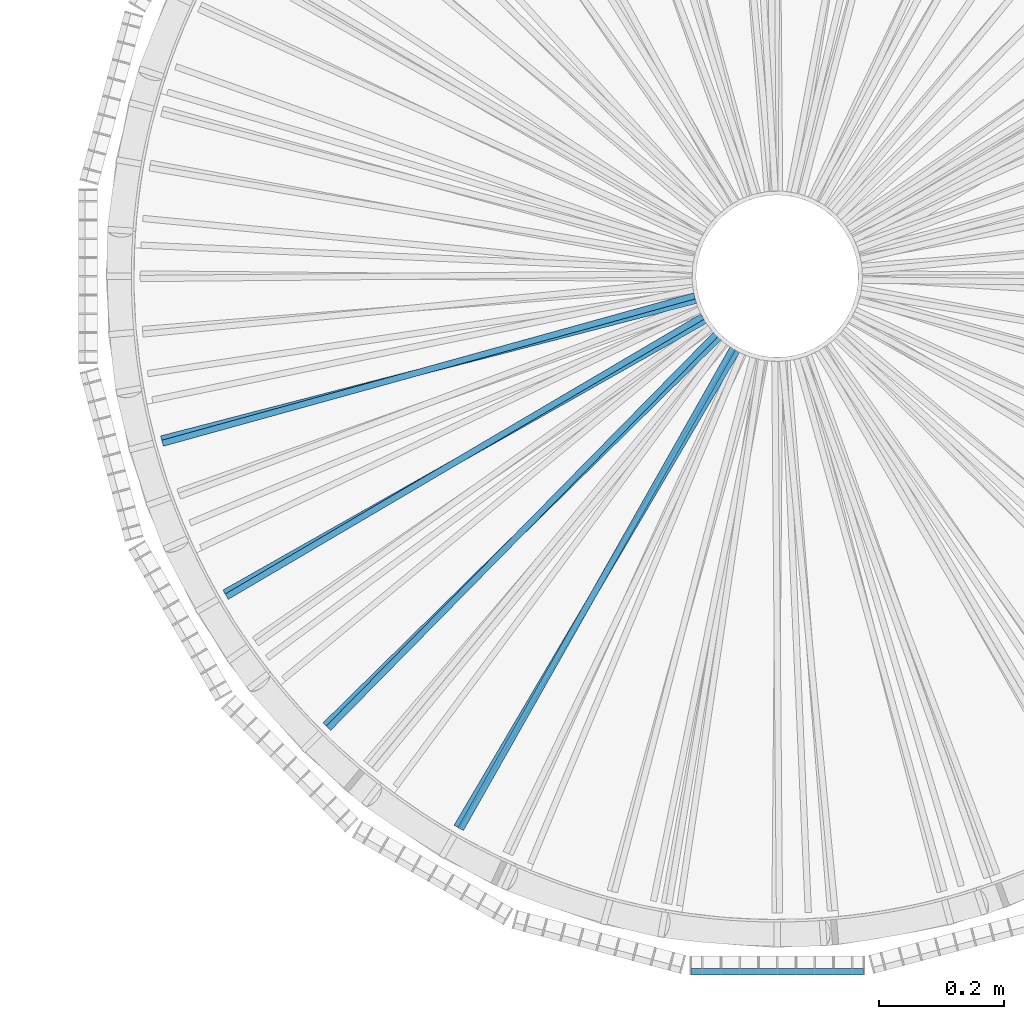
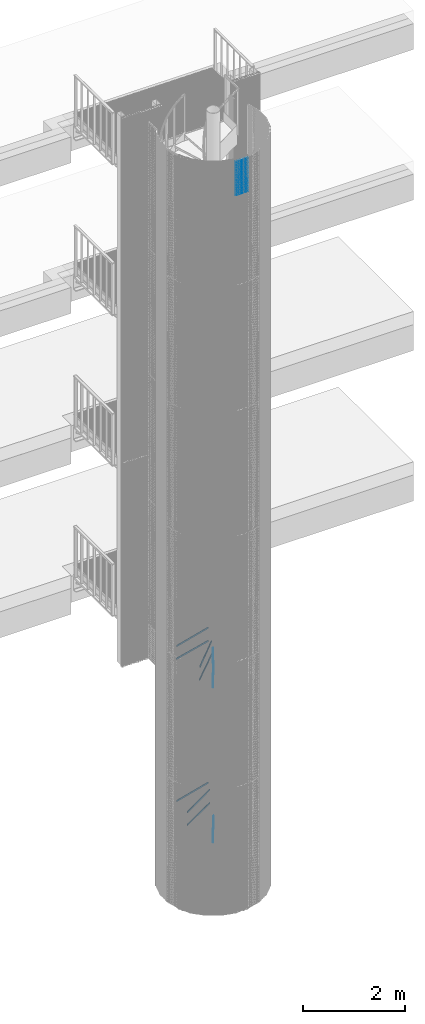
# One storey, part 390 of 1183: 38 beams, 2 elements without a shape of their own.
"""IFC2X3 building model written with IfcOpenShell, lengths in millimetres."""

from ifc_helpers import new_model, si_unit, frame, origin_with_axes, origin_2d_with_axis, place, context, subcontext, project, spatial, polyline, rectangle, outline, extrude, boolean, material, type_object, element, aggregate, save


model = new_model("IFC2X3")

# Units and contexts
model_context = context("Model", 3, precision=1e-05, world=origin_with_axes())
body_context = subcontext(model_context, "Body", "Model", "MODEL_VIEW")
ifc_project = project(units=[si_unit("LENGTHUNIT", "METRE", prefix="MILLI"), si_unit("AREAUNIT", "SQUARE_METRE"), si_unit("VOLUMEUNIT", "CUBIC_METRE"), si_unit("MASSUNIT", "GRAM", prefix="KILO"), si_unit("TIMEUNIT", "SECOND"), si_unit("PLANEANGLEUNIT", "RADIAN"), si_unit("SOLIDANGLEUNIT", "STERADIAN"), si_unit("THERMODYNAMICTEMPERATUREUNIT", "DEGREE_CELSIUS"), si_unit("LUMINOUSINTENSITYUNIT", "LUMEN")], contexts=[model_context])

# Site, building, storey
site_placement = place(None, origin_with_axes())
site = spatial("IfcSite", under=ifc_project, at=site_placement, Name="Undefined", CompositionType="ELEMENT")
building_placement = place(site_placement, origin_with_axes())
building = spatial("IfcBuilding", under=site, at=building_placement, Name="Undefined", CompositionType="ELEMENT")
storey_placement = place(building_placement, origin_with_axes())
storey = spatial("IfcBuildingStorey", under=building, at=storey_placement, Name="Undefined", CompositionType="ELEMENT", Elevation=0.0)

# Assembly, beams
assembly_1_placement = place(storey_placement, origin_with_axes())
assembly_1 = element("IfcElementAssembly", 1, at=assembly_1_placement, inside=storey, Name="BORDURE", AssemblyPlace="NOTDEFINED", PredefinedType="NOTDEFINED")
ifc_material = material(Name="STEEL/S235JR")
beam_type_1 = type_object("IfcBeamType", Name="PL2*10", PredefinedType="NOTDEFINED")
beam_1_placement = place(assembly_1_placement, frame((21737.9960033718, -1113.47999999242, 17970.0), z_axis=(0.0, -1.0, 0.0), x_axis=(-1.0, 0.0, 0.0)))
beam_1 = element("IfcBeam", 2, at=beam_1_placement, type_object=beam_type_1, material=ifc_material, Name="ENTRETOISE", context=body_context, shape_type="SweptSolid", body=[
    extrude(rectangle(XDim=2.0, YDim=10.0, at=origin_2d_with_axis()), frame((275.999999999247, 9.09494701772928e-13, 1.53210777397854e-14), z_axis=(-1.0, 0.0, 0.0), x_axis=(0.0, -1.0, 0.0)), (0.0, 0.0, 1.0), 276.0),
])
beam_2_placement = place(assembly_1_placement, frame((21737.9960033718, -1113.47999999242, 17940.0), z_axis=(0.0, -1.0, 0.0), x_axis=(-1.0, 0.0, 0.0)))
beam_2 = element("IfcBeam", 3, at=beam_2_placement, type_object=beam_type_1, material=ifc_material, Name="ENTRETOISE", context=body_context, shape_type="SweptSolid", body=[
    extrude(rectangle(XDim=2.0, YDim=10.0, at=origin_2d_with_axis()), frame((275.999999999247, 9.09494701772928e-13, 1.53210777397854e-14), z_axis=(-1.0, 0.0, 0.0), x_axis=(0.0, -1.0, 0.0)), (0.0, 0.0, 1.0), 276.0),
])
beam_3_placement = place(assembly_1_placement, frame((21737.9960033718, -1113.47999999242, 17910.0), z_axis=(0.0, -1.0, 0.0), x_axis=(-1.0, 0.0, 0.0)))
beam_3 = element("IfcBeam", 4, at=beam_3_placement, type_object=beam_type_1, material=ifc_material, Name="ENTRETOISE", context=body_context, shape_type="SweptSolid", body=[
    extrude(rectangle(XDim=2.0, YDim=10.0, at=origin_2d_with_axis()), frame((275.999999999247, 9.09494701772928e-13, 1.53210777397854e-14), z_axis=(-1.0, 0.0, 0.0), x_axis=(0.0, -1.0, 0.0)), (0.0, 0.0, 1.0), 276.0),
])
beam_4_placement = place(assembly_1_placement, frame((21737.9960033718, -1113.47999999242, 17880.0), z_axis=(0.0, -1.0, 0.0), x_axis=(-1.0, 0.0, 0.0)))
beam_4 = element("IfcBeam", 5, at=beam_4_placement, type_object=beam_type_1, material=ifc_material, Name="ENTRETOISE", context=body_context, shape_type="SweptSolid", body=[
    extrude(rectangle(XDim=2.0, YDim=10.0, at=origin_2d_with_axis()), frame((275.999999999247, 9.09494701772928e-13, 1.53210777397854e-14), z_axis=(-1.0, 0.0, 0.0), x_axis=(0.0, -1.0, 0.0)), (0.0, 0.0, 1.0), 276.0),
])
beam_5_placement = place(assembly_1_placement, frame((21737.9960033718, -1113.47999999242, 17850.0), z_axis=(0.0, -1.0, 0.0), x_axis=(-1.0, 0.0, 0.0)))
beam_5 = element("IfcBeam", 6, at=beam_5_placement, type_object=beam_type_1, material=ifc_material, Name="ENTRETOISE", context=body_context, shape_type="SweptSolid", body=[
    extrude(rectangle(XDim=2.0, YDim=10.0, at=origin_2d_with_axis()), frame((275.999999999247, 9.09494701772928e-13, 1.53210777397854e-14), z_axis=(-1.0, 0.0, 0.0), x_axis=(0.0, -1.0, 0.0)), (0.0, 0.0, 1.0), 276.0),
])
beam_6_placement = place(assembly_1_placement, frame((21737.9960033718, -1113.47999999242, 17820.0), z_axis=(0.0, -1.0, 0.0), x_axis=(-1.0, 0.0, 0.0)))
beam_6 = element("IfcBeam", 7, at=beam_6_placement, type_object=beam_type_1, material=ifc_material, Name="ENTRETOISE", context=body_context, shape_type="SweptSolid", body=[
    extrude(rectangle(XDim=2.0, YDim=10.0, at=origin_2d_with_axis()), frame((275.999999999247, 9.09494701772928e-13, 1.53210777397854e-14), z_axis=(-1.0, 0.0, 0.0), x_axis=(0.0, -1.0, 0.0)), (0.0, 0.0, 1.0), 276.0),
])
beam_7_placement = place(assembly_1_placement, frame((21737.9960033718, -1113.47999999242, 17790.0), z_axis=(0.0, -1.0, 0.0), x_axis=(-1.0, 0.0, 0.0)))
beam_7 = element("IfcBeam", 8, at=beam_7_placement, type_object=beam_type_1, material=ifc_material, Name="ENTRETOISE", context=body_context, shape_type="SweptSolid", body=[
    extrude(rectangle(XDim=2.0, YDim=10.0, at=origin_2d_with_axis()), frame((275.999999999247, 9.09494701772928e-13, 1.53210777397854e-14), z_axis=(-1.0, 0.0, 0.0), x_axis=(0.0, -1.0, 0.0)), (0.0, 0.0, 1.0), 276.0),
])
beam_8_placement = place(assembly_1_placement, frame((21737.9960033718, -1113.47999999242, 17760.0), z_axis=(0.0, -1.0, 0.0), x_axis=(-1.0, 0.0, 0.0)))
beam_8 = element("IfcBeam", 9, at=beam_8_placement, type_object=beam_type_1, material=ifc_material, Name="ENTRETOISE", context=body_context, shape_type="SweptSolid", body=[
    extrude(rectangle(XDim=2.0, YDim=10.0, at=origin_2d_with_axis()), frame((275.999999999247, 9.09494701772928e-13, 1.53210777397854e-14), z_axis=(-1.0, 0.0, 0.0), x_axis=(0.0, -1.0, 0.0)), (0.0, 0.0, 1.0), 276.0),
])
beam_9_placement = place(assembly_1_placement, frame((21737.9960033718, -1113.47999999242, 17730.0), z_axis=(0.0, -1.0, 0.0), x_axis=(-1.0, 0.0, 0.0)))
beam_9 = element("IfcBeam", 10, at=beam_9_placement, type_object=beam_type_1, material=ifc_material, Name="ENTRETOISE", context=body_context, shape_type="SweptSolid", body=[
    extrude(rectangle(XDim=2.0, YDim=10.0, at=origin_2d_with_axis()), frame((275.999999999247, 9.09494701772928e-13, 1.53210777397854e-14), z_axis=(-1.0, 0.0, 0.0), x_axis=(0.0, -1.0, 0.0)), (0.0, 0.0, 1.0), 276.0),
])
beam_10_placement = place(assembly_1_placement, frame((21737.9960033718, -1113.47999999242, 17700.0), z_axis=(0.0, -1.0, 0.0), x_axis=(-1.0, 0.0, 0.0)))
beam_10 = element("IfcBeam", 11, at=beam_10_placement, type_object=beam_type_1, material=ifc_material, Name="ENTRETOISE", context=body_context, shape_type="SweptSolid", body=[
    extrude(rectangle(XDim=2.0, YDim=10.0, at=origin_2d_with_axis()), frame((275.999999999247, 9.09494701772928e-13, 1.53210777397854e-14), z_axis=(-1.0, 0.0, 0.0), x_axis=(0.0, -1.0, 0.0)), (0.0, 0.0, 1.0), 276.0),
])
beam_11_placement = place(assembly_1_placement, frame((21737.9960033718, -1113.47999999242, 17670.0), z_axis=(0.0, -1.0, 0.0), x_axis=(-1.0, 0.0, 0.0)))
beam_11 = element("IfcBeam", 12, at=beam_11_placement, type_object=beam_type_1, material=ifc_material, Name="ENTRETOISE", context=body_context, shape_type="SweptSolid", body=[
    extrude(rectangle(XDim=2.0, YDim=10.0, at=origin_2d_with_axis()), frame((275.999999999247, 9.09494701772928e-13, 1.53210777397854e-14), z_axis=(-1.0, 0.0, 0.0), x_axis=(0.0, -1.0, 0.0)), (0.0, 0.0, 1.0), 276.0),
])
beam_12_placement = place(assembly_1_placement, frame((21737.9960033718, -1113.47999999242, 17640.0), z_axis=(0.0, -1.0, 0.0), x_axis=(-1.0, 0.0, 0.0)))
beam_12 = element("IfcBeam", 13, at=beam_12_placement, type_object=beam_type_1, material=ifc_material, Name="ENTRETOISE", context=body_context, shape_type="SweptSolid", body=[
    extrude(rectangle(XDim=2.0, YDim=10.0, at=origin_2d_with_axis()), frame((275.999999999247, 9.09494701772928e-13, 1.53210777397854e-14), z_axis=(-1.0, 0.0, 0.0), x_axis=(0.0, -1.0, 0.0)), (0.0, 0.0, 1.0), 276.0),
])
beam_13_placement = place(assembly_1_placement, frame((21737.9960033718, -1113.47999999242, 17610.0), z_axis=(0.0, -1.0, 0.0), x_axis=(-1.0, 0.0, 0.0)))
beam_13 = element("IfcBeam", 14, at=beam_13_placement, type_object=beam_type_1, material=ifc_material, Name="ENTRETOISE", context=body_context, shape_type="SweptSolid", body=[
    extrude(rectangle(XDim=2.0, YDim=10.0, at=origin_2d_with_axis()), frame((275.999999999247, 9.09494701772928e-13, 1.53210777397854e-14), z_axis=(-1.0, 0.0, 0.0), x_axis=(0.0, -1.0, 0.0)), (0.0, 0.0, 1.0), 276.0),
])
beam_14_placement = place(assembly_1_placement, frame((21737.9960033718, -1113.47999999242, 17580.0), z_axis=(0.0, -1.0, 0.0), x_axis=(-1.0, 0.0, 0.0)))
beam_14 = element("IfcBeam", 15, at=beam_14_placement, type_object=beam_type_1, material=ifc_material, Name="ENTRETOISE", context=body_context, shape_type="SweptSolid", body=[
    extrude(rectangle(XDim=2.0, YDim=10.0, at=origin_2d_with_axis()), frame((275.999999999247, 9.09494701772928e-13, 1.53210777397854e-14), z_axis=(-1.0, 0.0, 0.0), x_axis=(0.0, -1.0, 0.0)), (0.0, 0.0, 1.0), 276.0),
])
beam_15_placement = place(assembly_1_placement, frame((21737.9960033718, -1113.47999999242, 17550.0), z_axis=(0.0, -1.0, 0.0), x_axis=(-1.0, 0.0, 0.0)))
beam_15 = element("IfcBeam", 16, at=beam_15_placement, type_object=beam_type_1, material=ifc_material, Name="ENTRETOISE", context=body_context, shape_type="SweptSolid", body=[
    extrude(rectangle(XDim=2.0, YDim=10.0, at=origin_2d_with_axis()), frame((275.999999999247, 9.09494701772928e-13, 1.53210777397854e-14), z_axis=(-1.0, 0.0, 0.0), x_axis=(0.0, -1.0, 0.0)), (0.0, 0.0, 1.0), 276.0),
])
beam_16_placement = place(assembly_1_placement, frame((21737.9960033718, -1113.47999999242, 17520.0), z_axis=(0.0, -1.0, 0.0), x_axis=(-1.0, 0.0, 0.0)))
beam_16 = element("IfcBeam", 17, at=beam_16_placement, type_object=beam_type_1, material=ifc_material, Name="ENTRETOISE", context=body_context, shape_type="SweptSolid", body=[
    extrude(rectangle(XDim=2.0, YDim=10.0, at=origin_2d_with_axis()), frame((275.999999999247, 9.09494701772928e-13, 1.53210777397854e-14), z_axis=(-1.0, 0.0, 0.0), x_axis=(0.0, -1.0, 0.0)), (0.0, 0.0, 1.0), 276.0),
])
beam_17_placement = place(assembly_1_placement, frame((21737.9960033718, -1113.47999999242, 17490.0), z_axis=(0.0, -1.0, 0.0), x_axis=(-1.0, 0.0, 0.0)))
beam_17 = element("IfcBeam", 18, at=beam_17_placement, type_object=beam_type_1, material=ifc_material, Name="ENTRETOISE", context=body_context, shape_type="SweptSolid", body=[
    extrude(rectangle(XDim=2.0, YDim=10.0, at=origin_2d_with_axis()), frame((275.999999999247, 9.09494701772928e-13, 1.53210777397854e-14), z_axis=(-1.0, 0.0, 0.0), x_axis=(0.0, -1.0, 0.0)), (0.0, 0.0, 1.0), 276.0),
])
beam_18_placement = place(assembly_1_placement, frame((21737.9960033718, -1113.47999999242, 17460.0), z_axis=(0.0, -1.0, 0.0), x_axis=(-1.0, 0.0, 0.0)))
beam_18 = element("IfcBeam", 19, at=beam_18_placement, type_object=beam_type_1, material=ifc_material, Name="ENTRETOISE", context=body_context, shape_type="SweptSolid", body=[
    extrude(rectangle(XDim=2.0, YDim=10.0, at=origin_2d_with_axis()), frame((275.999999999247, 9.09494701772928e-13, 1.53210777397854e-14), z_axis=(-1.0, 0.0, 0.0), x_axis=(0.0, -1.0, 0.0)), (0.0, 0.0, 1.0), 276.0),
])
beam_19_placement = place(assembly_1_placement, frame((21737.9960033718, -1113.47999999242, 17430.0), z_axis=(0.0, -1.0, 0.0), x_axis=(-1.0, 0.0, 0.0)))
beam_19 = element("IfcBeam", 20, at=beam_19_placement, type_object=beam_type_1, material=ifc_material, Name="ENTRETOISE", context=body_context, shape_type="SweptSolid", body=[
    extrude(rectangle(XDim=2.0, YDim=10.0, at=origin_2d_with_axis()), frame((275.999999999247, 9.09494701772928e-13, 1.53210777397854e-14), z_axis=(-1.0, 0.0, 0.0), x_axis=(0.0, -1.0, 0.0)), (0.0, 0.0, 1.0), 276.0),
])
beam_20_placement = place(assembly_1_placement, frame((21737.9960033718, -1113.47999999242, 17400.0), z_axis=(0.0, -1.0, 0.0), x_axis=(-1.0, 0.0, 0.0)))
beam_20 = element("IfcBeam", 21, at=beam_20_placement, type_object=beam_type_1, material=ifc_material, Name="ENTRETOISE", context=body_context, shape_type="SweptSolid", body=[
    extrude(rectangle(XDim=2.0, YDim=10.0, at=origin_2d_with_axis()), frame((275.999999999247, 9.09494701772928e-13, 1.53210777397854e-14), z_axis=(-1.0, 0.0, 0.0), x_axis=(0.0, -1.0, 0.0)), (0.0, 0.0, 1.0), 276.0),
])
beam_21_placement = place(assembly_1_placement, frame((21737.9960033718, -1113.47999999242, 17370.0), z_axis=(0.0, -1.0, 0.0), x_axis=(-1.0, 0.0, 0.0)))
beam_21 = element("IfcBeam", 22, at=beam_21_placement, type_object=beam_type_1, material=ifc_material, Name="ENTRETOISE", context=body_context, shape_type="SweptSolid", body=[
    extrude(rectangle(XDim=2.0, YDim=10.0, at=origin_2d_with_axis()), frame((275.999999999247, 9.09494701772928e-13, 1.53210777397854e-14), z_axis=(-1.0, 0.0, 0.0), x_axis=(0.0, -1.0, 0.0)), (0.0, 0.0, 1.0), 276.0),
])
beam_22_placement = place(assembly_1_placement, frame((21737.9960033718, -1113.47999999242, 17340.0), z_axis=(0.0, -1.0, 0.0), x_axis=(-1.0, 0.0, 0.0)))
beam_22 = element("IfcBeam", 23, at=beam_22_placement, type_object=beam_type_1, material=ifc_material, Name="ENTRETOISE", context=body_context, shape_type="SweptSolid", body=[
    extrude(rectangle(XDim=2.0, YDim=10.0, at=origin_2d_with_axis()), frame((275.999999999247, 9.09494701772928e-13, 1.53210777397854e-14), z_axis=(-1.0, 0.0, 0.0), x_axis=(0.0, -1.0, 0.0)), (0.0, 0.0, 1.0), 276.0),
])
beam_23_placement = place(assembly_1_placement, frame((21737.9960033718, -1113.47999999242, 17310.0), z_axis=(0.0, -1.0, 0.0), x_axis=(-1.0, 0.0, 0.0)))
beam_23 = element("IfcBeam", 24, at=beam_23_placement, type_object=beam_type_1, material=ifc_material, Name="ENTRETOISE", context=body_context, shape_type="SweptSolid", body=[
    extrude(rectangle(XDim=2.0, YDim=10.0, at=origin_2d_with_axis()), frame((275.999999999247, 9.09494701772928e-13, 1.53210777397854e-14), z_axis=(-1.0, 0.0, 0.0), x_axis=(0.0, -1.0, 0.0)), (0.0, 0.0, 1.0), 276.0),
])
beam_24_placement = place(assembly_1_placement, frame((21737.9960033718, -1113.47999999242, 17280.0), z_axis=(0.0, -1.0, 0.0), x_axis=(-1.0, 0.0, 0.0)))
beam_24 = element("IfcBeam", 25, at=beam_24_placement, type_object=beam_type_1, material=ifc_material, Name="ENTRETOISE", context=body_context, shape_type="SweptSolid", body=[
    extrude(rectangle(XDim=2.0, YDim=10.0, at=origin_2d_with_axis()), frame((275.999999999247, 9.09494701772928e-13, 1.53210777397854e-14), z_axis=(-1.0, 0.0, 0.0), x_axis=(0.0, -1.0, 0.0)), (0.0, 0.0, 1.0), 276.0),
])
beam_25_placement = place(assembly_1_placement, frame((21737.9960033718, -1113.47999999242, 17250.0), z_axis=(0.0, -1.0, 0.0), x_axis=(-1.0, 0.0, 0.0)))
beam_25 = element("IfcBeam", 26, at=beam_25_placement, type_object=beam_type_1, material=ifc_material, Name="ENTRETOISE", context=body_context, shape_type="SweptSolid", body=[
    extrude(rectangle(XDim=2.0, YDim=10.0, at=origin_2d_with_axis()), frame((275.999999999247, 9.09494701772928e-13, 1.53210777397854e-14), z_axis=(-1.0, 0.0, 0.0), x_axis=(0.0, -1.0, 0.0)), (0.0, 0.0, 1.0), 276.0),
])
beam_26_placement = place(assembly_1_placement, frame((21737.9960033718, -1113.47999999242, 17220.0), z_axis=(0.0, -1.0, 0.0), x_axis=(-1.0, 0.0, 0.0)))
beam_26 = element("IfcBeam", 27, at=beam_26_placement, type_object=beam_type_1, material=ifc_material, Name="ENTRETOISE", context=body_context, shape_type="SweptSolid", body=[
    extrude(rectangle(XDim=2.0, YDim=10.0, at=origin_2d_with_axis()), frame((275.999999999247, 9.09494701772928e-13, 1.53210777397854e-14), z_axis=(-1.0, 0.0, 0.0), x_axis=(0.0, -1.0, 0.0)), (0.0, 0.0, 1.0), 276.0),
])
beam_27_placement = place(assembly_1_placement, frame((21737.9960033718, -1113.47999999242, 17190.0), z_axis=(0.0, -1.0, 0.0), x_axis=(-1.0, 0.0, 0.0)))
beam_27 = element("IfcBeam", 28, at=beam_27_placement, type_object=beam_type_1, material=ifc_material, Name="ENTRETOISE", context=body_context, shape_type="SweptSolid", body=[
    extrude(rectangle(XDim=2.0, YDim=10.0, at=origin_2d_with_axis()), frame((275.999999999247, 9.09494701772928e-13, 1.53210777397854e-14), z_axis=(-1.0, 0.0, 0.0), x_axis=(0.0, -1.0, 0.0)), (0.0, 0.0, 1.0), 276.0),
])
beam_28_placement = place(assembly_1_placement, frame((21737.9960033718, -1113.47999999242, 17160.0), z_axis=(0.0, -1.0, 0.0), x_axis=(-1.0, 0.0, 0.0)))
beam_28 = element("IfcBeam", 29, at=beam_28_placement, type_object=beam_type_1, material=ifc_material, Name="ENTRETOISE", context=body_context, shape_type="SweptSolid", body=[
    extrude(rectangle(XDim=2.0, YDim=10.0, at=origin_2d_with_axis()), frame((275.999999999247, 9.09494701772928e-13, 1.53210777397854e-14), z_axis=(-1.0, 0.0, 0.0), x_axis=(0.0, -1.0, 0.0)), (0.0, 0.0, 1.0), 276.0),
])
aggregate(assembly_1, [beam_1, beam_2, beam_3, beam_4, beam_5, beam_6, beam_7, beam_8, beam_9, beam_10, beam_11, beam_12, beam_13, beam_14, beam_15, beam_16, beam_17, beam_18, beam_19, beam_20, beam_21, beam_22, beam_23, beam_24, beam_25, beam_26, beam_27, beam_28])

assembly_2_placement = place(storey_placement, origin_with_axes())
assembly_2 = element("IfcElementAssembly", 30, at=assembly_2_placement, inside=storey, Name="POTEAU", AssemblyPlace="NOTDEFINED", PredefinedType="NOTDEFINED")
beam_type_2 = type_object("IfcBeamType", Name="PL10*40", PredefinedType="NOTDEFINED")
beam_29_placement = place(assembly_2_placement, frame((21529.442808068, -45.6889352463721, 1984.76), z_axis=(0.0, 0.0, 1.0), x_axis=(-0.870228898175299, -0.492647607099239, 0.0)))
beam_29 = element("IfcBeam", 31, at=beam_29_placement, type_object=beam_type_2, material=ifc_material, Name="RAIDISSEUR", context=body_context, shape_type="CSG", body=[
    boolean("DIFFERENCE", extrude(rectangle(XDim=10.0, YDim=40.0, at=origin_2d_with_axis()), frame((935.982964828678, -2.59787459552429e-14, -3.63797880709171e-12), z_axis=(-1.0, 0.0, 0.0), x_axis=(0.0, -1.0, 0.0)), (0.0, 0.0, 1.0), 935.98), extrude(outline(polyline([(0.0, 0.0), (30.5663019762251, -4.91127138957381e-11), (60.366242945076, 6.80164206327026), (87.9055294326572, 20.0638634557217), (111.803226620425, 39.1216410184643), (130.861004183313, 63.0193382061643), (144.123225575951, 90.5586246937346), (150.9248676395, 120.358565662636), (150.924867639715, 150.924867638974), (144.123225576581, 180.724808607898), (130.86100418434, 208.264095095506), (111.803226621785, 232.161792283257), (87.9055294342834, 251.219569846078), (60.3662429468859, 264.481791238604), (30.5663019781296, 271.283433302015), (1.90266291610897e-09, 271.28343330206), (-29.7999409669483, 264.481791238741), (-57.3392274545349, 251.219569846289), (-81.2369246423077, 232.161792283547), (-100.294702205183, 208.26409509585), (-113.556923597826, 180.724808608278), (-120.35856566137, 150.92486763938), (-120.358565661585, 120.358565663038), (-113.556923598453, 90.5586246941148), (-100.294702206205, 63.0193382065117), (-81.2369246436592, 39.1216410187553), (-57.3392274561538, 20.0638634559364), (-29.7999409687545, 6.80164206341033), (0.0, 0.0)])), frame((50.3112422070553, 19.8405966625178, -22.5), z_axis=(0.0, 0.0, 1.0), x_axis=(-0.290932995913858, 0.956743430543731, 0.0)), (0.0, 0.0, 1.0), 45.0)),
])
beam_30_placement = place(assembly_2_placement, frame((21525.153625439, -38.2598530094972, 2293.8), z_axis=(0.0, 0.0, 1.0), x_axis=(-0.861759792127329, -0.507316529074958, 0.0)))
beam_30 = element("IfcBeam", 32, at=beam_30_placement, type_object=beam_type_2, material=ifc_material, Name="RAIDISSEUR", context=body_context, shape_type="CSG", body=[
    boolean("DIFFERENCE", extrude(rectangle(XDim=10.0, YDim=40.0, at=origin_2d_with_axis()), frame((935.982964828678, -2.59787459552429e-14, -3.63797880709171e-12), z_axis=(-1.0, 0.0, 0.0), x_axis=(0.0, -1.0, 0.0)), (0.0, 0.0, 1.0), 935.98), extrude(outline(polyline([(0.0, 0.0), (30.5663019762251, -4.91127138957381e-11), (60.366242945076, 6.80164206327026), (87.9055294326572, 20.0638634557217), (111.803226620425, 39.1216410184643), (130.861004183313, 63.0193382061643), (144.123225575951, 90.5586246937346), (150.9248676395, 120.358565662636), (150.924867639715, 150.924867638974), (144.123225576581, 180.724808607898), (130.86100418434, 208.264095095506), (111.803226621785, 232.161792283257), (87.9055294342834, 251.219569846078), (60.3662429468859, 264.481791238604), (30.5663019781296, 271.283433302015), (1.90266291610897e-09, 271.28343330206), (-29.7999409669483, 264.481791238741), (-57.3392274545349, 251.219569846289), (-81.2369246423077, 232.161792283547), (-100.294702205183, 208.26409509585), (-113.556923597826, 180.724808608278), (-120.35856566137, 150.92486763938), (-120.358565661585, 120.358565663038), (-113.556923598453, 90.5586246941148), (-100.294702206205, 63.0193382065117), (-81.2369246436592, 39.1216410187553), (-57.3392274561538, 20.0638634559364), (-29.7999409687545, 6.80164206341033), (0.0, 0.0)])), frame((50.7127282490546, 27.5636561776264, -22.5), z_axis=(0.0, 0.0, 1.0), x_axis=(-0.274686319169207, 0.961533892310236, 0.0)), (0.0, 0.0, 1.0), 45.0)),
])
beam_31_placement = place(assembly_2_placement, frame((21543.6721526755, -62.3936675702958, 5538.72), z_axis=(0.0, 0.0, 1.0), x_axis=(-0.713069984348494, -0.70109285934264, 0.0)))
beam_31 = element("IfcBeam", 33, at=beam_31_placement, type_object=beam_type_2, material=ifc_material, Name="RAIDISSEUR", context=body_context, shape_type="CSG", body=[
    boolean("DIFFERENCE", extrude(rectangle(XDim=10.0, YDim=40.0, at=origin_2d_with_axis()), frame((935.982964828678, -2.59787459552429e-14, -3.63797880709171e-12), z_axis=(-1.0, 0.0, 0.0), x_axis=(0.0, -1.0, 0.0)), (0.0, 0.0, 1.0), 935.98), extrude(outline(polyline([(0.0, 0.0), (30.5663019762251, -4.91127138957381e-11), (60.366242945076, 6.80164206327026), (87.9055294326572, 20.0638634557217), (111.803226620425, 39.1216410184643), (130.861004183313, 63.0193382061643), (144.123225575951, 90.5586246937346), (150.9248676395, 120.358565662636), (150.924867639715, 150.924867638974), (144.123225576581, 180.724808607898), (130.86100418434, 208.264095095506), (111.803226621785, 232.161792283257), (87.9055294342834, 251.219569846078), (60.3662429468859, 264.481791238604), (30.5663019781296, 271.283433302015), (1.90266291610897e-09, 271.28343330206), (-29.7999409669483, 264.481791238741), (-57.3392274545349, 251.219569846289), (-81.2369246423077, 232.161792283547), (-100.294702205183, 208.26409509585), (-113.556923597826, 180.724808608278), (-120.35856566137, 150.92486763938), (-120.358565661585, 120.358565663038), (-113.556923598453, 90.5586246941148), (-100.294702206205, 63.0193382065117), (-81.2369246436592, 39.1216410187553), (-57.3392274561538, 20.0638634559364), (-29.7999409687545, 6.80164206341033), (0.0, 0.0)])), frame((52.1670024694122, -15.7446980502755, -22.5), z_axis=(0.0, 0.0, 1.0), x_axis=(-0.0333962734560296, 0.999442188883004, 0.0)), (0.0, 0.0, 1.0), 45.0)),
])
beam_32_placement = place(assembly_2_placement, frame((21561.7401469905, -74.8463745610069, 5384.2), z_axis=(0.0, 0.0, 1.0), x_axis=(-0.50731652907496, -0.861759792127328, 0.0)))
beam_32 = element("IfcBeam", 34, at=beam_32_placement, type_object=beam_type_2, material=ifc_material, Name="RAIDISSEUR", context=body_context, shape_type="CSG", body=[
    boolean("DIFFERENCE", extrude(rectangle(XDim=10.0, YDim=40.0, at=origin_2d_with_axis()), frame((935.982964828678, -2.59787459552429e-14, -3.63797880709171e-12), z_axis=(-1.0, 0.0, 0.0), x_axis=(0.0, -1.0, 0.0)), (0.0, 0.0, 1.0), 935.98), extrude(outline(polyline([(0.0, 0.0), (30.5663019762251, -4.91127138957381e-11), (60.366242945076, 6.80164206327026), (87.9055294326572, 20.0638634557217), (111.803226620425, 39.1216410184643), (130.861004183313, 63.0193382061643), (144.123225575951, 90.5586246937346), (150.9248676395, 120.358565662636), (150.924867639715, 150.924867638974), (144.123225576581, 180.724808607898), (130.86100418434, 208.264095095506), (111.803226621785, 232.161792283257), (87.9055294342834, 251.219569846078), (60.3662429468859, 264.481791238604), (30.5663019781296, 271.283433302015), (1.90266291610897e-09, 271.28343330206), (-29.7999409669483, 264.481791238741), (-57.3392274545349, 251.219569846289), (-81.2369246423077, 232.161792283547), (-100.294702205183, 208.26409509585), (-113.556923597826, 180.724808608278), (-120.35856566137, 150.92486763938), (-120.358565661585, 120.358565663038), (-113.556923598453, 90.5586246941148), (-100.294702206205, 63.0193382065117), (-81.2369246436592, 39.1216410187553), (-57.3392274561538, 20.0638634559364), (-29.7999409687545, 6.80164206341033), (0.0, 0.0)])), frame((44.7493772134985, -50.597759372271, -22.5), z_axis=(0.0, 0.0, 1.0), x_axis=(0.226416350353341, 0.974030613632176, 0.0)), (0.0, 0.0, 1.0), 45.0)),
])
beam_33_placement = place(assembly_2_placement, frame((21517.8015751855, -17.5845129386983, 2448.32), z_axis=(0.0, 0.0, 1.0), x_axis=(-0.963699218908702, -0.266990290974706, 0.0)))
beam_33 = element("IfcBeam", 35, at=beam_33_placement, type_object=beam_type_2, material=ifc_material, Name="RAIDISSEUR", context=body_context, shape_type="CSG", body=[
    boolean("DIFFERENCE", extrude(rectangle(XDim=10.0, YDim=40.0, at=origin_2d_with_axis()), frame((935.982964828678, -2.59787459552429e-14, -3.63797880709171e-12), z_axis=(-1.0, 0.0, 0.0), x_axis=(0.0, -1.0, 0.0)), (0.0, 0.0, 1.0), 935.98), extrude(outline(polyline([(0.0, 0.0), (30.5663019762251, -4.91127138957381e-11), (60.366242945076, 6.80164206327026), (87.9055294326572, 20.0638634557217), (111.803226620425, 39.1216410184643), (130.861004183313, 63.0193382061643), (144.123225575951, 90.5586246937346), (150.9248676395, 120.358565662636), (150.924867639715, 150.924867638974), (144.123225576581, 180.724808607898), (130.86100418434, 208.264095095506), (111.803226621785, 232.161792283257), (87.9055294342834, 251.219569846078), (60.3662429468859, 264.481791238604), (30.5663019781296, 271.283433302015), (1.90266291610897e-09, 271.28343330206), (-29.7999409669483, 264.481791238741), (-57.3392274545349, 251.219569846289), (-81.2369246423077, 232.161792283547), (-100.294702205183, 208.26409509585), (-113.556923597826, 180.724808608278), (-120.35856566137, 150.92486763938), (-120.358565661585, 120.358565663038), (-113.556923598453, 90.5586246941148), (-100.294702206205, 63.0193382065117), (-81.2369246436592, 39.1216410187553), (-57.3392274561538, 20.0638634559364), (-29.7999409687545, 6.80164206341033), (0.0, 0.0)])), frame((40.2856847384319, 61.6376023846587, -22.4999999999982), z_axis=(0.0, 0.0, 1.0), x_axis=(-0.514189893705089, 0.857676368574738, 0.0)), (0.0, 0.0, 1.0), 45.0)),
])
beam_34_placement = place(assembly_2_placement, frame((21520.0218194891, -25.8705774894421, 5847.76), z_axis=(0.0, 0.0, 1.0), x_axis=(-0.968083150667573, -0.250629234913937, 0.0)))
beam_34 = element("IfcBeam", 36, at=beam_34_placement, type_object=beam_type_2, material=ifc_material, Name="RAIDISSEUR", context=body_context, shape_type="CSG", body=[
    boolean("DIFFERENCE", extrude(rectangle(XDim=10.0, YDim=40.0, at=origin_2d_with_axis()), frame((935.982964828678, -2.59787459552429e-14, -3.63797880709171e-12), z_axis=(-1.0, 0.0, 0.0), x_axis=(0.0, -1.0, 0.0)), (0.0, 0.0, 1.0), 935.98), extrude(outline(polyline([(0.0, 0.0), (30.5663019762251, -4.91127138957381e-11), (60.366242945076, 6.80164206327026), (87.9055294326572, 20.0638634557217), (111.803226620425, 39.1216410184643), (130.861004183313, 63.0193382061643), (144.123225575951, 90.5586246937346), (150.9248676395, 120.358565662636), (150.924867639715, 150.924867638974), (144.123225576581, 180.724808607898), (130.86100418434, 208.264095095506), (111.803226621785, 232.161792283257), (87.9055294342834, 251.219569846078), (60.3662429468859, 264.481791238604), (30.5663019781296, 271.283433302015), (1.90266291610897e-09, 271.28343330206), (-29.7999409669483, 264.481791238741), (-57.3392274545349, 251.219569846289), (-81.2369246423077, 232.161792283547), (-100.294702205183, 208.26409509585), (-113.556923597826, 180.724808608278), (-120.35856566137, 150.92486763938), (-120.358565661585, 120.358565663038), (-113.556923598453, 90.5586246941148), (-100.294702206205, 63.0193382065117), (-81.2369246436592, 39.1216410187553), (-57.3392274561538, 20.0638634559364), (-29.7999409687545, 6.80164206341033), (0.0, 0.0)])), frame((39.3085634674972, 53.7330457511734, -22.5), z_axis=(0.0, 0.0, 1.0), x_axis=(-0.528643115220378, 0.848844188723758, 0.0)), (0.0, 0.0, 1.0), 45.0)),
])
beam_35_placement = place(assembly_2_placement, frame((21554.3110647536, -70.5571919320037, 5693.24), z_axis=(0.0, 0.0, 1.0), x_axis=(-0.492647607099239, -0.870228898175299, 0.0)))
beam_35 = element("IfcBeam", 37, at=beam_35_placement, type_object=beam_type_2, material=ifc_material, Name="RAIDISSEUR", context=body_context, shape_type="CSG", body=[
    boolean("DIFFERENCE", extrude(rectangle(XDim=10.0, YDim=40.0, at=origin_2d_with_axis()), frame((935.982964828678, -2.59787459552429e-14, -3.63797880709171e-12), z_axis=(-1.0, 0.0, 0.0), x_axis=(0.0, -1.0, 0.0)), (0.0, 0.0, 1.0), 935.98), extrude(outline(polyline([(0.0, 0.0), (30.5663019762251, -4.91127138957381e-11), (60.366242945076, 6.80164206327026), (87.9055294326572, 20.0638634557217), (111.803226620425, 39.1216410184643), (130.861004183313, 63.0193382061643), (144.123225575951, 90.5586246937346), (150.9248676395, 120.358565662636), (150.924867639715, 150.924867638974), (144.123225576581, 180.724808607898), (130.86100418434, 208.264095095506), (111.803226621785, 232.161792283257), (87.9055294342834, 251.219569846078), (60.3662429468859, 264.481791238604), (30.5663019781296, 271.283433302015), (1.90266291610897e-09, 271.28343330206), (-29.7999409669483, 264.481791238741), (-57.3392274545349, 251.219569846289), (-81.2369246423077, 232.161792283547), (-100.294702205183, 208.26409509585), (-113.556923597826, 180.724808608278), (-120.35856566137, 150.92486763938), (-120.358565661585, 120.358565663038), (-113.556923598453, 90.5586246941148), (-100.294702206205, 63.0193382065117), (-81.2369246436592, 39.1216410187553), (-57.3392274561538, 20.0638634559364), (-29.7999409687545, 6.80164206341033), (0.0, 0.0)])), frame((43.9586040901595, -42.7703906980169, -22.5000000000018), z_axis=(0.0, 0.0, 1.0), x_axis=(0.24288161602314, 0.970055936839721, 0.0)), (0.0, 0.0, 1.0), 45.0)),
])
beam_36_placement = place(assembly_2_placement, frame((21537.6063324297, -56.3278473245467, 5847.76), z_axis=(0.0, 0.0, 1.0), x_axis=(-0.701092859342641, -0.713069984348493, 0.0)))
beam_36 = element("IfcBeam", 38, at=beam_36_placement, type_object=beam_type_2, material=ifc_material, Name="RAIDISSEUR", context=body_context, shape_type="CSG", body=[
    boolean("DIFFERENCE", extrude(rectangle(XDim=10.0, YDim=40.0, at=origin_2d_with_axis()), frame((935.982964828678, -2.59787459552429e-14, -3.63797880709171e-12), z_axis=(-1.0, 0.0, 0.0), x_axis=(0.0, -1.0, 0.0)), (0.0, 0.0, 1.0), 935.98), extrude(outline(polyline([(0.0, 0.0), (30.5663019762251, -4.91127138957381e-11), (60.366242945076, 6.80164206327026), (87.9055294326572, 20.0638634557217), (111.803226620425, 39.1216410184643), (130.861004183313, 63.0193382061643), (144.123225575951, 90.5586246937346), (150.9248676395, 120.358565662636), (150.924867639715, 150.924867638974), (144.123225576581, 180.724808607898), (130.86100418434, 208.264095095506), (111.803226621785, 232.161792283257), (87.9055294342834, 251.219569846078), (60.3662429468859, 264.481791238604), (30.5663019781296, 271.283433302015), (1.90266291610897e-09, 271.28343330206), (-29.7999409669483, 264.481791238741), (-57.3392274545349, 251.219569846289), (-81.2369246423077, 232.161792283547), (-100.294702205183, 208.26409509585), (-113.556923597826, 180.724808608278), (-120.35856566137, 150.92486763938), (-120.358565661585, 120.358565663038), (-113.556923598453, 90.5586246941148), (-100.294702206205, 63.0193382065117), (-81.2369246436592, 39.1216410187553), (-57.3392274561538, 20.0638634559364), (-29.7999409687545, 6.80164206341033), (0.0, 0.0)])), frame((51.9654926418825, -8.04796593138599, -22.4999999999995), z_axis=(0.0, 0.0, 1.0), x_axis=(-0.0164633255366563, 0.999864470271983, 0.0)), (0.0, 0.0, 1.0), 45.0)),
])
beam_37_placement = place(assembly_2_placement, frame((21517.8015751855, -17.5845129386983, 6156.80000000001), z_axis=(0.0, 0.0, 1.0), x_axis=(-0.963699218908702, -0.266990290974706, 0.0)))
beam_37 = element("IfcBeam", 39, at=beam_37_placement, type_object=beam_type_2, material=ifc_material, Name="RAIDISSEUR", context=body_context, shape_type="CSG", body=[
    boolean("DIFFERENCE", extrude(rectangle(XDim=10.0, YDim=40.0, at=origin_2d_with_axis()), frame((935.982964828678, -2.59787459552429e-14, -3.63797880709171e-12), z_axis=(-1.0, 0.0, 0.0), x_axis=(0.0, -1.0, 0.0)), (0.0, 0.0, 1.0), 935.98), extrude(outline(polyline([(0.0, 0.0), (30.5663019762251, -4.91127138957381e-11), (60.366242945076, 6.80164206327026), (87.9055294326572, 20.0638634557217), (111.803226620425, 39.1216410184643), (130.861004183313, 63.0193382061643), (144.123225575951, 90.5586246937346), (150.9248676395, 120.358565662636), (150.924867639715, 150.924867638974), (144.123225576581, 180.724808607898), (130.86100418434, 208.264095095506), (111.803226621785, 232.161792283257), (87.9055294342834, 251.219569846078), (60.3662429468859, 264.481791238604), (30.5663019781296, 271.283433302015), (1.90266291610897e-09, 271.28343330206), (-29.7999409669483, 264.481791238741), (-57.3392274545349, 251.219569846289), (-81.2369246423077, 232.161792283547), (-100.294702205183, 208.26409509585), (-113.556923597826, 180.724808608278), (-120.35856566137, 150.92486763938), (-120.358565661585, 120.358565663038), (-113.556923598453, 90.5586246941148), (-100.294702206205, 63.0193382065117), (-81.2369246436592, 39.1216410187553), (-57.3392274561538, 20.0638634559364), (-29.7999409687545, 6.80164206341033), (0.0, 0.0)])), frame((40.2856847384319, 61.6376023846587, -22.4999999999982), z_axis=(0.0, 0.0, 1.0), x_axis=(-0.514189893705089, 0.857676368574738, 0.0)), (0.0, 0.0, 1.0), 45.0)),
])
beam_38_placement = place(assembly_2_placement, frame((21561.7401469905, -74.8463745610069, 1675.72), z_axis=(0.0, 0.0, 1.0), x_axis=(-0.50731652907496, -0.861759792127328, 0.0)))
beam_38 = element("IfcBeam", 40, at=beam_38_placement, type_object=beam_type_2, material=ifc_material, Name="RAIDISSEUR", context=body_context, shape_type="CSG", body=[
    boolean("DIFFERENCE", extrude(rectangle(XDim=10.0, YDim=40.0, at=origin_2d_with_axis()), frame((935.982964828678, -2.59787459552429e-14, -3.63797880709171e-12), z_axis=(-1.0, 0.0, 0.0), x_axis=(0.0, -1.0, 0.0)), (0.0, 0.0, 1.0), 935.98), extrude(outline(polyline([(0.0, 0.0), (30.5663019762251, -4.91127138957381e-11), (60.366242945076, 6.80164206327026), (87.9055294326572, 20.0638634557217), (111.803226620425, 39.1216410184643), (130.861004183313, 63.0193382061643), (144.123225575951, 90.5586246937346), (150.9248676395, 120.358565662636), (150.924867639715, 150.924867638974), (144.123225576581, 180.724808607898), (130.86100418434, 208.264095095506), (111.803226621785, 232.161792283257), (87.9055294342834, 251.219569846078), (60.3662429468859, 264.481791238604), (30.5663019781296, 271.283433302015), (1.90266291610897e-09, 271.28343330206), (-29.7999409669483, 264.481791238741), (-57.3392274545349, 251.219569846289), (-81.2369246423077, 232.161792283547), (-100.294702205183, 208.26409509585), (-113.556923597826, 180.724808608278), (-120.35856566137, 150.92486763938), (-120.358565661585, 120.358565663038), (-113.556923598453, 90.5586246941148), (-100.294702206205, 63.0193382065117), (-81.2369246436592, 39.1216410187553), (-57.3392274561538, 20.0638634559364), (-29.7999409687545, 6.80164206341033), (0.0, 0.0)])), frame((44.7493772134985, -50.597759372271, -22.5), z_axis=(0.0, 0.0, 1.0), x_axis=(0.226416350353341, 0.974030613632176, 0.0)), (0.0, 0.0, 1.0), 45.0)),
])
aggregate(assembly_2, [beam_29, beam_30, beam_31, beam_32, beam_33, beam_34, beam_35, beam_36, beam_37, beam_38])

save(model, "model.ifc")
